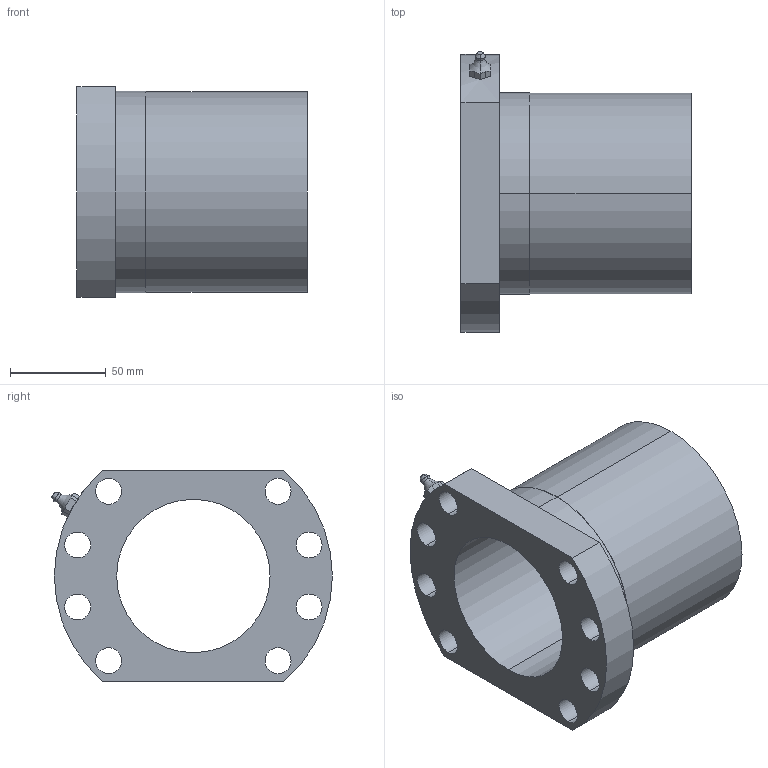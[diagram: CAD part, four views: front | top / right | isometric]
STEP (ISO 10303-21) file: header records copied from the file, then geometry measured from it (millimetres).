
FILE_DESCRIPTION (( 'STEP AP203' ), '1' );
FILE_NAME ('DEB8010-R-6EF.STEP', '2002-08-15T11:01:56', ( '.' ), ( '.' ), 'SwSTEP 2.0', 'SolidWorks 2001340', '' );
FILE_SCHEMA (( 'CONFIG_CONTROL_DESIGN' ));
Length unit declared in the file: millimetre
Products named in the file (1): DEB8010-R-6EF
Bounding box: 120 x 146.43 x 110 mm (x, y, z)
Volume: 521967.8 mm3; surface area: 95031 mm2
Topology: 1 solids, 1 shells, 55 faces, 150 edges, 98 vertices
Faces by surface type: cylinder 30, plane 19, torus 2, sphere 2, cone 2
Entity records: 1899 total; most frequent: CARTESIAN_POINT 420, DIRECTION 294, ORIENTED_EDGE 292, EDGE_CURVE 146, AXIS2_PLACEMENT_3D 122, VERTEX_POINT 96, EDGE_LOOP 76, CIRCLE 66
